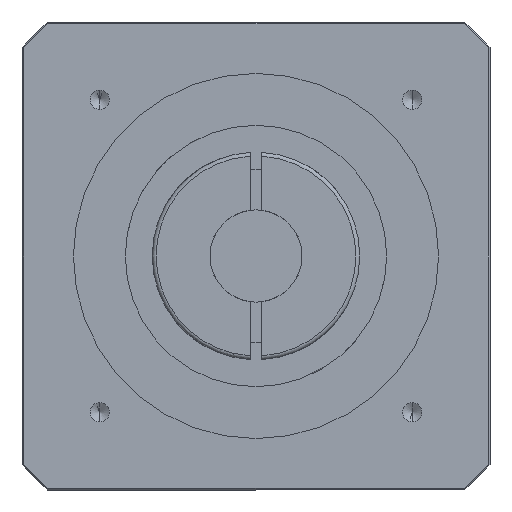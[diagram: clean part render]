
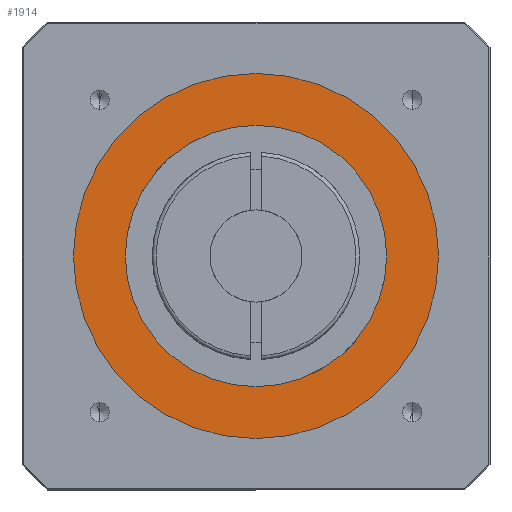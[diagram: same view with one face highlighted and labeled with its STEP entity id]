
A CAD part, front view. The second image highlights one B-rep face of the part: STEP entity #1914.
In plain terms, the highlighted planar face has unit normal (0, -1, 0).
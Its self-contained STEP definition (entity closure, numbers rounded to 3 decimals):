
#284 = CARTESIAN_POINT ( 'NONE',  ( 0., -146.7, 0. ) ) ;
#287 = PLANE ( 'NONE',  #609 ) ;
#289 = DIRECTION ( 'NONE',  ( 0., -1., 0. ) ) ;
#290 = DIRECTION ( 'NONE',  ( 0., 0., -1. ) ) ;
#515 = DIRECTION ( 'NONE',  ( 0., -1., 0. ) ) ;
#528 = DIRECTION ( 'NONE',  ( 0., 0., -1. ) ) ;
#536 = CARTESIAN_POINT ( 'NONE',  ( 0., -146.7, 0. ) ) ;
#539 = DIRECTION ( 'NONE',  ( 0., 0., -1. ) ) ;
#541 = DIRECTION ( 'NONE',  ( 0., -1., 0. ) ) ;
#563 = CARTESIAN_POINT ( 'NONE',  ( 0., -146.7, 0. ) ) ;
#609 = AXIS2_PLACEMENT_3D ( 'NONE', #284, #289, #290 ) ;
#694 = AXIS2_PLACEMENT_3D ( 'NONE', #3469, #3470, #3471 ) ;
#723 = AXIS2_PLACEMENT_3D ( 'NONE', #2596, #2597, #2598 ) ;
#882 = EDGE_CURVE ( 'NONE', #4569, #4567, #4717, .T. ) ;
#883 = EDGE_CURVE ( 'NONE', #1677, #1642, #4715, .T. ) ;
#991 = AXIS2_PLACEMENT_3D ( 'NONE', #563, #515, #539 ) ;
#992 = AXIS2_PLACEMENT_3D ( 'NONE', #536, #541, #528 ) ;
#1571 = EDGE_LOOP ( 'NONE', ( #4959, #4989 ) ) ;
#1596 = EDGE_LOOP ( 'NONE', ( #4958, #4960 ) ) ;
#1642 = VERTEX_POINT ( 'NONE', #4218 ) ;
#1677 = VERTEX_POINT ( 'NONE', #4253 ) ;
#1914 = ADVANCED_FACE ( 'NONE', ( #2104, #2107 ), #287, .T. ) ;
#2104 = FACE_BOUND ( 'NONE', #1571, .T. ) ;
#2107 = FACE_OUTER_BOUND ( 'NONE', #1596, .T. ) ;
#2285 = CIRCLE ( 'NONE', #694, 47.5 ) ;
#2397 = CIRCLE ( 'NONE', #723, 34. ) ;
#2596 = CARTESIAN_POINT ( 'NONE',  ( 0., -146.7, 0. ) ) ;
#2597 = DIRECTION ( 'NONE',  ( 0., -1., 0. ) ) ;
#2598 = DIRECTION ( 'NONE',  ( 0., 0., -1. ) ) ;
#2915 = CARTESIAN_POINT ( 'NONE',  ( 0., -146.7, -34. ) ) ;
#2919 = CARTESIAN_POINT ( 'NONE',  ( 0., -146.7, 34. ) ) ;
#3155 = EDGE_CURVE ( 'NONE', #1642, #1677, #2285, .T. ) ;
#3231 = EDGE_CURVE ( 'NONE', #4567, #4569, #2397, .T. ) ;
#3469 = CARTESIAN_POINT ( 'NONE',  ( 0., -146.7, 0. ) ) ;
#3470 = DIRECTION ( 'NONE',  ( 0., -1., 0. ) ) ;
#3471 = DIRECTION ( 'NONE',  ( 0., 0., -1. ) ) ;
#4218 = CARTESIAN_POINT ( 'NONE',  ( 0., -146.7, 47.5 ) ) ;
#4253 = CARTESIAN_POINT ( 'NONE',  ( 0., -146.7, -47.5 ) ) ;
#4567 = VERTEX_POINT ( 'NONE', #2919 ) ;
#4569 = VERTEX_POINT ( 'NONE', #2915 ) ;
#4715 = CIRCLE ( 'NONE', #992, 47.5 ) ;
#4717 = CIRCLE ( 'NONE', #991, 34. ) ;
#4958 = ORIENTED_EDGE ( 'NONE', *, *, #883, .T. ) ;
#4959 = ORIENTED_EDGE ( 'NONE', *, *, #882, .F. ) ;
#4960 = ORIENTED_EDGE ( 'NONE', *, *, #3155, .T. ) ;
#4989 = ORIENTED_EDGE ( 'NONE', *, *, #3231, .F. ) ;
